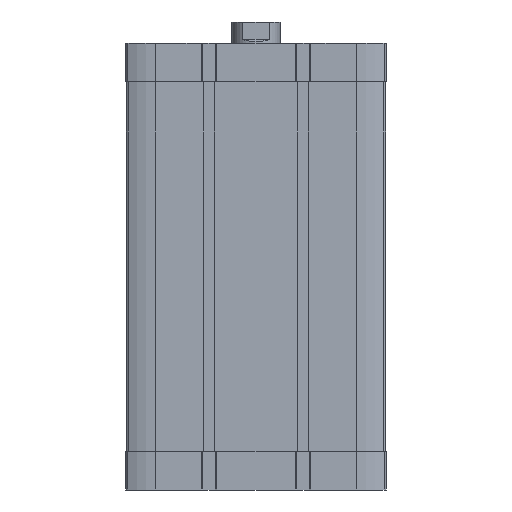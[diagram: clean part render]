
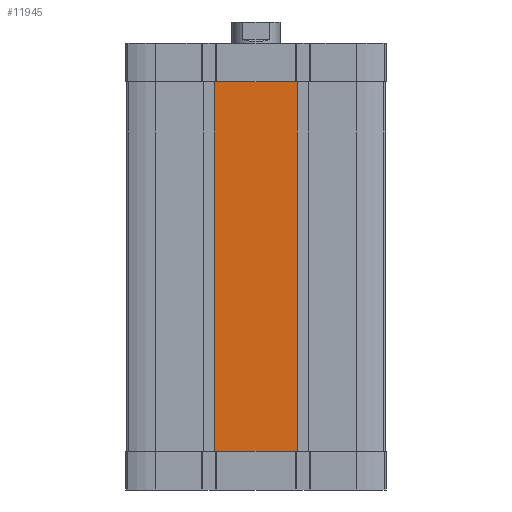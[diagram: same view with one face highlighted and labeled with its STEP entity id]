
A CAD part, front view. The second image highlights one B-rep face of the part: STEP entity #11945.
In plain terms, the highlighted planar face has unit normal (0, -1, 0).
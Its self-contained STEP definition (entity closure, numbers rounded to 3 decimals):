
#252 = EDGE_CURVE ( 'NONE', #13673, #14975, #6937, .T. ) ;
#575 = PLANE ( 'NONE',  #8206 ) ;
#713 = EDGE_CURVE ( 'NONE', #13673, #8680, #6901, .T. ) ;
#846 = CARTESIAN_POINT ( 'NONE',  ( -21.3, -67., -211. ) ) ;
#1423 = CARTESIAN_POINT ( 'NONE',  ( -21.3, -67., -211. ) ) ;
#1572 = VECTOR ( 'NONE', #2072, 1000. ) ;
#1754 = ORIENTED_EDGE ( 'NONE', *, *, #7894, .T. ) ;
#1821 = ORIENTED_EDGE ( 'NONE', *, *, #9608, .T. ) ;
#2067 = CARTESIAN_POINT ( 'NONE',  ( -21.3, -67., -20. ) ) ;
#2072 = DIRECTION ( 'NONE',  ( 0., 0., 1. ) ) ;
#2242 = DIRECTION ( 'NONE',  ( 1., 0., 0. ) ) ;
#2451 = VECTOR ( 'NONE', #10326, 1000. ) ;
#2904 = VERTEX_POINT ( 'NONE', #11769 ) ;
#3576 = CARTESIAN_POINT ( 'NONE',  ( -20.687, -67., -20. ) ) ;
#4169 = ORIENTED_EDGE ( 'NONE', *, *, #252, .F. ) ;
#4271 = ORIENTED_EDGE ( 'NONE', *, *, #15467, .F. ) ;
#4895 = ORIENTED_EDGE ( 'NONE', *, *, #6772, .F. ) ;
#5628 = DIRECTION ( 'NONE',  ( 1., 0., 0. ) ) ;
#6723 = DIRECTION ( 'NONE',  ( 1., 0., 0. ) ) ;
#6772 = EDGE_CURVE ( 'NONE', #7411, #11346, #16042, .T. ) ;
#6901 = LINE ( 'NONE', #9927, #11974 ) ;
#6937 = LINE ( 'NONE', #10849, #13354 ) ;
#7265 = DIRECTION ( 'NONE',  ( 0., 0., -1. ) ) ;
#7411 = VERTEX_POINT ( 'NONE', #3576 ) ;
#7894 = EDGE_CURVE ( 'NONE', #8692, #13643, #14162, .T. ) ;
#8206 = AXIS2_PLACEMENT_3D ( 'NONE', #9965, #8574, #7265 ) ;
#8407 = DIRECTION ( 'NONE',  ( 0., 0., 1. ) ) ;
#8574 = DIRECTION ( 'NONE',  ( 0., -1., 0. ) ) ;
#8680 = VERTEX_POINT ( 'NONE', #10183 ) ;
#8692 = VERTEX_POINT ( 'NONE', #9689 ) ;
#8795 = VECTOR ( 'NONE', #2242, 1000. ) ;
#8933 = LINE ( 'NONE', #13211, #2451 ) ;
#9165 = EDGE_CURVE ( 'NONE', #11346, #13643, #8933, .T. ) ;
#9249 = LINE ( 'NONE', #14563, #16057 ) ;
#9332 = LINE ( 'NONE', #1423, #14414 ) ;
#9608 = EDGE_CURVE ( 'NONE', #8680, #2904, #9332, .T. ) ;
#9689 = CARTESIAN_POINT ( 'NONE',  ( 21.3, -67., -211. ) ) ;
#9927 = CARTESIAN_POINT ( 'NONE',  ( -67., -67., -211. ) ) ;
#9965 = CARTESIAN_POINT ( 'NONE',  ( -67., -67., -211. ) ) ;
#10183 = CARTESIAN_POINT ( 'NONE',  ( -20.687, -67., -211. ) ) ;
#10326 = DIRECTION ( 'NONE',  ( 1., 0., 0. ) ) ;
#10382 = DIRECTION ( 'NONE',  ( 1., 0., 0. ) ) ;
#10479 = VECTOR ( 'NONE', #5628, 1000. ) ;
#10849 = CARTESIAN_POINT ( 'NONE',  ( -21.3, -67., -211. ) ) ;
#11283 = ORIENTED_EDGE ( 'NONE', *, *, #9165, .F. ) ;
#11346 = VERTEX_POINT ( 'NONE', #15990 ) ;
#11458 = CARTESIAN_POINT ( 'NONE',  ( -21.3, -67., -20. ) ) ;
#11769 = CARTESIAN_POINT ( 'NONE',  ( 20.687, -67., -211. ) ) ;
#11876 = ORIENTED_EDGE ( 'NONE', *, *, #14810, .T. ) ;
#11945 = ADVANCED_FACE ( 'NONE', ( #13961 ), #575, .T. ) ;
#11974 = VECTOR ( 'NONE', #15147, 1000. ) ;
#12020 = EDGE_LOOP ( 'NONE', ( #4169, #12574, #1821, #11876, #1754, #11283, #4895, #4271 ) ) ;
#12160 = CARTESIAN_POINT ( 'NONE',  ( 21.3, -67., -20. ) ) ;
#12574 = ORIENTED_EDGE ( 'NONE', *, *, #713, .T. ) ;
#12777 = CARTESIAN_POINT ( 'NONE',  ( 21.3, -67., -211. ) ) ;
#13211 = CARTESIAN_POINT ( 'NONE',  ( -67., -67., -20. ) ) ;
#13354 = VECTOR ( 'NONE', #8407, 1000. ) ;
#13643 = VERTEX_POINT ( 'NONE', #12160 ) ;
#13673 = VERTEX_POINT ( 'NONE', #846 ) ;
#13961 = FACE_OUTER_BOUND ( 'NONE', #12020, .T. ) ;
#14162 = LINE ( 'NONE', #12777, #1572 ) ;
#14414 = VECTOR ( 'NONE', #6723, 1000. ) ;
#14563 = CARTESIAN_POINT ( 'NONE',  ( -67., -67., -20. ) ) ;
#14810 = EDGE_CURVE ( 'NONE', #2904, #8692, #15033, .T. ) ;
#14975 = VERTEX_POINT ( 'NONE', #2067 ) ;
#15033 = LINE ( 'NONE', #16162, #10479 ) ;
#15147 = DIRECTION ( 'NONE',  ( 1., 0., 0. ) ) ;
#15467 = EDGE_CURVE ( 'NONE', #14975, #7411, #9249, .T. ) ;
#15990 = CARTESIAN_POINT ( 'NONE',  ( 20.687, -67., -20. ) ) ;
#16042 = LINE ( 'NONE', #11458, #8795 ) ;
#16057 = VECTOR ( 'NONE', #10382, 1000. ) ;
#16162 = CARTESIAN_POINT ( 'NONE',  ( -67., -67., -211. ) ) ;
